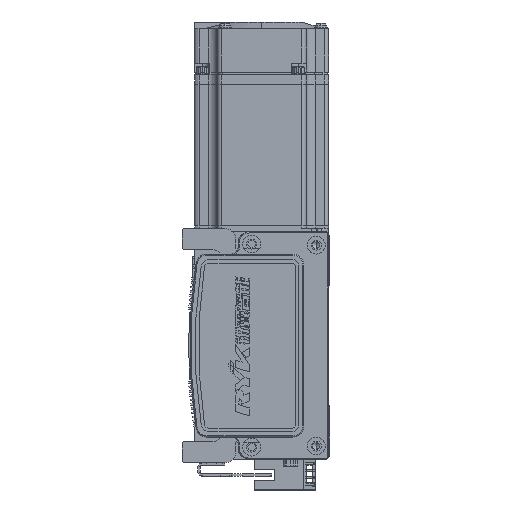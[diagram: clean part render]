
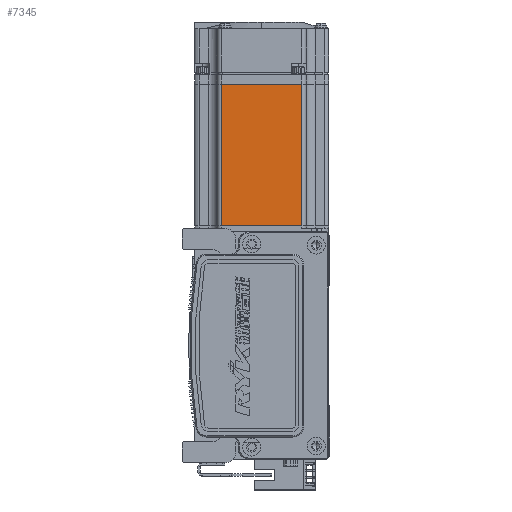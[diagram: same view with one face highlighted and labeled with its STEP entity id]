
A CAD part, left-side view. The second image highlights one B-rep face of the part: STEP entity #7345.
In plain terms, the highlighted planar face has unit normal (-1, 0, 0) as drawn and (0, 0, -1) by its records, which use the part's own axes.
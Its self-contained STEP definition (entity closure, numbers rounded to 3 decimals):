
#1513 = ORIENTED_EDGE ( 'NONE', *, *, #14590, .T. ) ;
#3328 = DIRECTION ( 'NONE',  ( 0., 1., 0. ) ) ;
#5730 = AXIS2_PLACEMENT_3D ( 'NONE', #6610, #12635, #51182 ) ;
#6610 = CARTESIAN_POINT ( 'NONE',  ( -6.5, 25., -30. ) ) ;
#7345 = ADVANCED_FACE ( 'NONE', ( #37358 ), #66343, .T. ) ;
#9327 = LINE ( 'NONE', #48927, #13632 ) ;
#11047 = ORIENTED_EDGE ( 'NONE', *, *, #48472, .T. ) ;
#11444 = ORIENTED_EDGE ( 'NONE', *, *, #42684, .T. ) ;
#12635 = DIRECTION ( 'NONE',  ( 0., 0., -1. ) ) ;
#12992 = DIRECTION ( 'NONE',  ( 1., 0., 0. ) ) ;
#13632 = VECTOR ( 'NONE', #70574, 1000. ) ;
#14590 = EDGE_CURVE ( 'NONE', #49946, #16237, #48701, .T. ) ;
#16237 = VERTEX_POINT ( 'NONE', #33572 ) ;
#19711 = CARTESIAN_POINT ( 'NONE',  ( -70.95, 25., -30. ) ) ;
#21759 = VECTOR ( 'NONE', #12992, 1000. ) ;
#22763 = EDGE_LOOP ( 'NONE', ( #1513, #65969, #11047, #11444 ) ) ;
#25285 = EDGE_CURVE ( 'NONE', #16237, #46322, #9327, .T. ) ;
#28613 = CARTESIAN_POINT ( 'NONE',  ( -7.75, 25., -30. ) ) ;
#30479 = VECTOR ( 'NONE', #3328, 1000. ) ;
#33185 = VECTOR ( 'NONE', #62047, 1000. ) ;
#33572 = CARTESIAN_POINT ( 'NONE',  ( -7.75, -18., -30. ) ) ;
#37358 = FACE_OUTER_BOUND ( 'NONE', #22763, .T. ) ;
#39414 = CARTESIAN_POINT ( 'NONE',  ( -70.95, -18., -30. ) ) ;
#41434 = VERTEX_POINT ( 'NONE', #44749 ) ;
#41696 = LINE ( 'NONE', #19711, #30479 ) ;
#42684 = EDGE_CURVE ( 'NONE', #41434, #49946, #67430, .T. ) ;
#44749 = CARTESIAN_POINT ( 'NONE',  ( -70.95, 18., -30. ) ) ;
#46322 = VERTEX_POINT ( 'NONE', #39414 ) ;
#48472 = EDGE_CURVE ( 'NONE', #46322, #41434, #41696, .T. ) ;
#48701 = LINE ( 'NONE', #28613, #33185 ) ;
#48927 = CARTESIAN_POINT ( 'NONE',  ( -6.5, -18., -30. ) ) ;
#49946 = VERTEX_POINT ( 'NONE', #57812 ) ;
#51182 = DIRECTION ( 'NONE',  ( -1., 0., 0. ) ) ;
#57812 = CARTESIAN_POINT ( 'NONE',  ( -7.75, 18., -30. ) ) ;
#61831 = CARTESIAN_POINT ( 'NONE',  ( -6.5, 18., -30. ) ) ;
#62047 = DIRECTION ( 'NONE',  ( 0., -1., 0. ) ) ;
#65969 = ORIENTED_EDGE ( 'NONE', *, *, #25285, .T. ) ;
#66343 = PLANE ( 'NONE',  #5730 ) ;
#67430 = LINE ( 'NONE', #61831, #21759 ) ;
#70574 = DIRECTION ( 'NONE',  ( -1., 0., 0. ) ) ;
